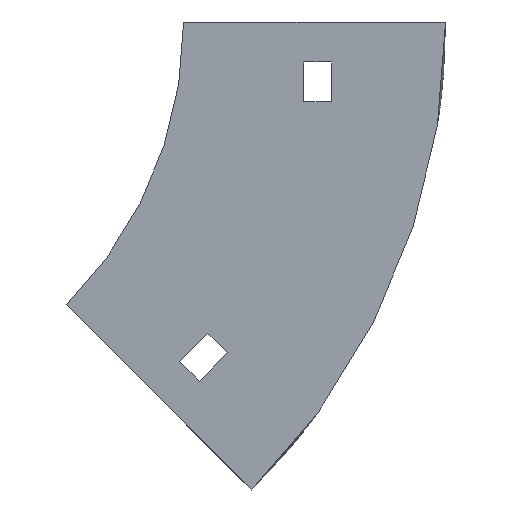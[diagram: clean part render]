
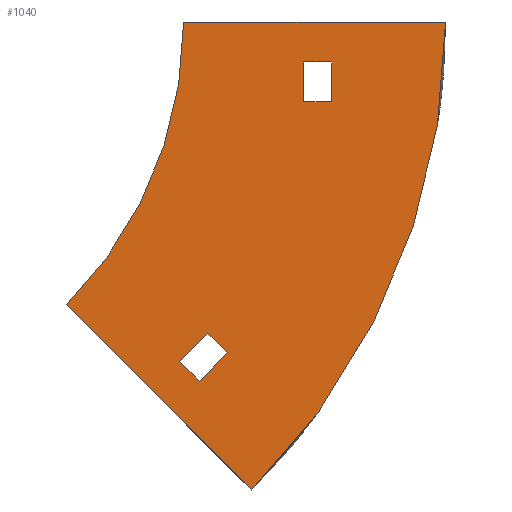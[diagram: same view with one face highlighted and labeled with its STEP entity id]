
A CAD part, left-side view. The second image highlights one B-rep face of the part: STEP entity #1040.
In plain terms, the highlighted planar face has unit normal (-1, 0, 0).
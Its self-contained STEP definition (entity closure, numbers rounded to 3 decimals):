
#4 = DIRECTION ( 'NONE',  ( 0., 0., -1. ) ) ;
#10 = CARTESIAN_POINT ( 'NONE',  ( -202., 100., 0. ) ) ;
#20 = DIRECTION ( 'NONE',  ( 0., 0., -1. ) ) ;
#32 = VECTOR ( 'NONE', #947, 1000. ) ;
#46 = VERTEX_POINT ( 'NONE', #110 ) ;
#106 = DIRECTION ( 'NONE',  ( 0., 0., -1. ) ) ;
#110 = CARTESIAN_POINT ( 'NONE',  ( -202., 1.005, -84.853 ) ) ;
#129 = ORIENTED_EDGE ( 'NONE', *, *, #532, .F. ) ;
#145 = CARTESIAN_POINT ( 'NONE',  ( -202., -37., -10. ) ) ;
#164 = CARTESIAN_POINT ( 'NONE',  ( -202., -65.5, 0. ) ) ;
#177 = LINE ( 'NONE', #164, #731 ) ;
#178 = CARTESIAN_POINT ( 'NONE',  ( -202., -30., -10. ) ) ;
#188 = CARTESIAN_POINT ( 'NONE',  ( -202., 100., 0. ) ) ;
#198 = VECTOR ( 'NONE', #538, 1000. ) ;
#226 = EDGE_CURVE ( 'NONE', #1142, #515, #231, .T. ) ;
#231 = LINE ( 'NONE', #329, #488 ) ;
#233 = VECTOR ( 'NONE', #331, 1000. ) ;
#234 = CARTESIAN_POINT ( 'NONE',  ( -202., 1.005, -84.853 ) ) ;
#237 = CIRCLE ( 'NONE', #570, 165.5 ) ;
#246 = CARTESIAN_POINT ( 'NONE',  ( -202., -65.5, 0. ) ) ;
#254 = VERTEX_POINT ( 'NONE', #347 ) ;
#272 = CARTESIAN_POINT ( 'NONE',  ( -202., 100., 0. ) ) ;
#277 = EDGE_CURVE ( 'NONE', #46, #1142, #482, .T. ) ;
#289 = DIRECTION ( 'NONE',  ( -1., 0., 0. ) ) ;
#324 = VECTOR ( 'NONE', #893, 1000. ) ;
#329 = CARTESIAN_POINT ( 'NONE',  ( -202., -3.945, -89.803 ) ) ;
#331 = DIRECTION ( 'NONE',  ( 0., 0.707, -0.707 ) ) ;
#336 = LINE ( 'NONE', #1148, #32 ) ;
#344 = EDGE_LOOP ( 'NONE', ( #417, #129, #629, #459 ) ) ;
#347 = CARTESIAN_POINT ( 'NONE',  ( -202., -17.026, -117.026 ) ) ;
#356 = VERTEX_POINT ( 'NONE', #366 ) ;
#366 = CARTESIAN_POINT ( 'NONE',  ( -202., -6.066, -77.782 ) ) ;
#373 = FACE_OUTER_BOUND ( 'NONE', #816, .T. ) ;
#389 = ORIENTED_EDGE ( 'NONE', *, *, #990, .F. ) ;
#399 = EDGE_CURVE ( 'NONE', #429, #1106, #518, .T. ) ;
#416 = VERTEX_POINT ( 'NONE', #432 ) ;
#417 = ORIENTED_EDGE ( 'NONE', *, *, #277, .F. ) ;
#429 = VERTEX_POINT ( 'NONE', #964 ) ;
#432 = CARTESIAN_POINT ( 'NONE',  ( -202., -37., -10. ) ) ;
#455 = LINE ( 'NONE', #871, #1016 ) ;
#459 = ORIENTED_EDGE ( 'NONE', *, *, #226, .F. ) ;
#474 = ORIENTED_EDGE ( 'NONE', *, *, #399, .T. ) ;
#482 = LINE ( 'NONE', #1097, #324 ) ;
#488 = VECTOR ( 'NONE', #580, 1000. ) ;
#515 = VERTEX_POINT ( 'NONE', #846 ) ;
#518 = LINE ( 'NONE', #529, #565 ) ;
#525 = VECTOR ( 'NONE', #737, 1000. ) ;
#527 = ORIENTED_EDGE ( 'NONE', *, *, #569, .T. ) ;
#529 = CARTESIAN_POINT ( 'NONE',  ( -202., -30., -10. ) ) ;
#532 = EDGE_CURVE ( 'NONE', #356, #46, #1119, .T. ) ;
#534 = VERTEX_POINT ( 'NONE', #858 ) ;
#538 = DIRECTION ( 'NONE',  ( 0., -1., 0. ) ) ;
#541 = ORIENTED_EDGE ( 'NONE', *, *, #931, .F. ) ;
#549 = VERTEX_POINT ( 'NONE', #246 ) ;
#565 = VECTOR ( 'NONE', #697, 1000. ) ;
#569 = EDGE_CURVE ( 'NONE', #1106, #416, #705, .T. ) ;
#570 = AXIS2_PLACEMENT_3D ( 'NONE', #10, #904, #106 ) ;
#571 = ORIENTED_EDGE ( 'NONE', *, *, #884, .T. ) ;
#575 = CARTESIAN_POINT ( 'NONE',  ( -202., -3.945, -89.803 ) ) ;
#580 = DIRECTION ( 'NONE',  ( 0., -0.707, 0.707 ) ) ;
#594 = EDGE_CURVE ( 'NONE', #515, #356, #455, .T. ) ;
#617 = FACE_BOUND ( 'NONE', #344, .T. ) ;
#627 = LINE ( 'NONE', #987, #525 ) ;
#629 = ORIENTED_EDGE ( 'NONE', *, *, #594, .F. ) ;
#642 = CARTESIAN_POINT ( 'NONE',  ( -202., -30., -10. ) ) ;
#654 = DIRECTION ( 'NONE',  ( 0., 0., -1. ) ) ;
#673 = ORIENTED_EDGE ( 'NONE', *, *, #674, .F. ) ;
#674 = EDGE_CURVE ( 'NONE', #254, #534, #627, .T. ) ;
#697 = DIRECTION ( 'NONE',  ( 0., 0., 1. ) ) ;
#705 = LINE ( 'NONE', #178, #198 ) ;
#731 = VECTOR ( 'NONE', #776, 1000. ) ;
#737 = DIRECTION ( 'NONE',  ( 0., 0.707, 0.707 ) ) ;
#763 = AXIS2_PLACEMENT_3D ( 'NONE', #272, #289, #4 ) ;
#776 = DIRECTION ( 'NONE',  ( 0., -1., 0. ) ) ;
#804 = FACE_BOUND ( 'NONE', #1027, .T. ) ;
#816 = EDGE_LOOP ( 'NONE', ( #389, #673, #968, #541 ) ) ;
#818 = CIRCLE ( 'NONE', #763, 100. ) ;
#846 = CARTESIAN_POINT ( 'NONE',  ( -202., -11.016, -82.731 ) ) ;
#850 = CARTESIAN_POINT ( 'NONE',  ( -202., -37., -20. ) ) ;
#858 = CARTESIAN_POINT ( 'NONE',  ( -202., 29.289, -70.711 ) ) ;
#871 = CARTESIAN_POINT ( 'NONE',  ( -202., -6.066, -77.782 ) ) ;
#875 = AXIS2_PLACEMENT_3D ( 'NONE', #188, #1069, #20 ) ;
#884 = EDGE_CURVE ( 'NONE', #944, #429, #336, .T. ) ;
#893 = DIRECTION ( 'NONE',  ( 0., -0.707, -0.707 ) ) ;
#904 = DIRECTION ( 'NONE',  ( 1., 0., 0. ) ) ;
#909 = LINE ( 'NONE', #145, #1023 ) ;
#931 = EDGE_CURVE ( 'NONE', #958, #549, #177, .T. ) ;
#944 = VERTEX_POINT ( 'NONE', #850 ) ;
#947 = DIRECTION ( 'NONE',  ( 0., 1., 0. ) ) ;
#958 = VERTEX_POINT ( 'NONE', #1029 ) ;
#964 = CARTESIAN_POINT ( 'NONE',  ( -202., -30., -20. ) ) ;
#965 = DIRECTION ( 'NONE',  ( 0., 0.707, 0.707 ) ) ;
#968 = ORIENTED_EDGE ( 'NONE', *, *, #1034, .F. ) ;
#987 = CARTESIAN_POINT ( 'NONE',  ( -202., 29.289, -70.711 ) ) ;
#989 = ORIENTED_EDGE ( 'NONE', *, *, #1130, .T. ) ;
#990 = EDGE_CURVE ( 'NONE', #534, #958, #818, .T. ) ;
#1016 = VECTOR ( 'NONE', #965, 1000. ) ;
#1023 = VECTOR ( 'NONE', #654, 1000. ) ;
#1027 = EDGE_LOOP ( 'NONE', ( #474, #527, #989, #571 ) ) ;
#1029 = CARTESIAN_POINT ( 'NONE',  ( -202., 0., 0. ) ) ;
#1034 = EDGE_CURVE ( 'NONE', #549, #254, #237, .T. ) ;
#1040 = ADVANCED_FACE ( 'NONE', ( #373, #804, #617 ), #1063, .F. ) ;
#1063 = PLANE ( 'NONE',  #875 ) ;
#1069 = DIRECTION ( 'NONE',  ( 1., 0., 0. ) ) ;
#1097 = CARTESIAN_POINT ( 'NONE',  ( -202., 1.005, -84.853 ) ) ;
#1106 = VERTEX_POINT ( 'NONE', #642 ) ;
#1119 = LINE ( 'NONE', #234, #233 ) ;
#1130 = EDGE_CURVE ( 'NONE', #416, #944, #909, .T. ) ;
#1142 = VERTEX_POINT ( 'NONE', #575 ) ;
#1148 = CARTESIAN_POINT ( 'NONE',  ( -202., -30., -20. ) ) ;
